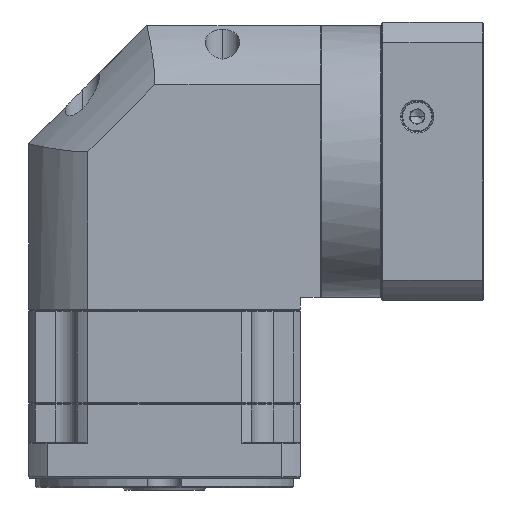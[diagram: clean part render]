
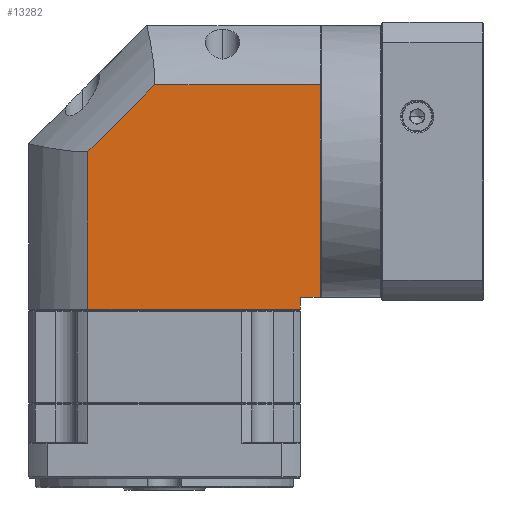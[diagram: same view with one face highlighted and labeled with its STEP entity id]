
A CAD part, front view. The second image highlights one B-rep face of the part: STEP entity #13282.
In plain terms, the highlighted planar face has unit normal (0, -1, 0).
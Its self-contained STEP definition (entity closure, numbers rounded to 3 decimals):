
#1129 = EDGE_CURVE ( 'NONE', #91819, #67849, #65681, .T. ) ;
#1877 = CARTESIAN_POINT ( 'NONE',  ( 36.419, 5.353, 45.963 ) ) ;
#4081 = EDGE_CURVE ( 'NONE', #128246, #91819, #98656, .T. ) ;
#4465 = LINE ( 'NONE', #43493, #109723 ) ;
#4494 = VECTOR ( 'NONE', #123927, 1000. ) ;
#8130 = CARTESIAN_POINT ( 'NONE',  ( -17.02, 5.353, -55.436 ) ) ;
#10123 = VECTOR ( 'NONE', #76498, 1000. ) ;
#13282 = ADVANCED_FACE ( 'NONE', ( #71266 ), #107092, .F. ) ;
#14163 = DIRECTION ( 'NONE',  ( 0.707, 0., 0.707 ) ) ;
#21072 = ORIENTED_EDGE ( 'NONE', *, *, #25868, .F. ) ;
#25868 = EDGE_CURVE ( 'NONE', #53745, #110664, #4465, .T. ) ;
#25946 = DIRECTION ( 'NONE',  ( 0., 0., -1. ) ) ;
#27776 = DIRECTION ( 'NONE',  ( -1., 0., 0. ) ) ;
#33877 = EDGE_CURVE ( 'NONE', #110664, #128246, #63104, .T. ) ;
#35139 = CARTESIAN_POINT ( 'NONE',  ( 106.38, 5.353, 45.963 ) ) ;
#36675 = VECTOR ( 'NONE', #27776, 1000. ) ;
#37037 = ORIENTED_EDGE ( 'NONE', *, *, #1129, .F. ) ;
#42286 = CARTESIAN_POINT ( 'NONE',  ( 106.38, 5.353, -43.936 ) ) ;
#43493 = CARTESIAN_POINT ( 'NONE',  ( 8.08, 5.353, -55.436 ) ) ;
#46980 = CARTESIAN_POINT ( 'NONE',  ( -17.02, 5.353, -48.936 ) ) ;
#52097 = ORIENTED_EDGE ( 'NONE', *, *, #105339, .F. ) ;
#52172 = EDGE_LOOP ( 'NONE', ( #56459, #78258, #37037, #77835, #67050, #21072, #52097 ) ) ;
#52604 = CARTESIAN_POINT ( 'NONE',  ( -17.02, 5.353, 45.963 ) ) ;
#53745 = VERTEX_POINT ( 'NONE', #56819 ) ;
#56459 = ORIENTED_EDGE ( 'NONE', *, *, #81456, .F. ) ;
#56688 = VECTOR ( 'NONE', #14163, 1000. ) ;
#56819 = CARTESIAN_POINT ( 'NONE',  ( 8.08, 5.353, -48.936 ) ) ;
#62510 = CARTESIAN_POINT ( 'NONE',  ( 8.08, 5.353, 17.625 ) ) ;
#63104 = LINE ( 'NONE', #65018, #56688 ) ;
#65018 = CARTESIAN_POINT ( 'NONE',  ( 8.08, 5.353, 17.625 ) ) ;
#65681 = LINE ( 'NONE', #117789, #116664 ) ;
#67050 = ORIENTED_EDGE ( 'NONE', *, *, #33877, .F. ) ;
#67458 = VERTEX_POINT ( 'NONE', #130574 ) ;
#67849 = VERTEX_POINT ( 'NONE', #42286 ) ;
#68260 = LINE ( 'NONE', #77279, #92182 ) ;
#71266 = FACE_OUTER_BOUND ( 'NONE', #52172, .T. ) ;
#76498 = DIRECTION ( 'NONE',  ( 0., 0., -1. ) ) ;
#77279 = CARTESIAN_POINT ( 'NONE',  ( -17.02, 5.353, -43.936 ) ) ;
#77835 = ORIENTED_EDGE ( 'NONE', *, *, #4081, .F. ) ;
#78258 = ORIENTED_EDGE ( 'NONE', *, *, #83627, .F. ) ;
#79495 = DIRECTION ( 'NONE',  ( 1., 0., 0. ) ) ;
#81456 = EDGE_CURVE ( 'NONE', #103790, #67458, #104260, .T. ) ;
#83627 = EDGE_CURVE ( 'NONE', #67849, #103790, #68260, .T. ) ;
#90963 = LINE ( 'NONE', #46980, #36675 ) ;
#91819 = VERTEX_POINT ( 'NONE', #35139 ) ;
#92182 = VECTOR ( 'NONE', #97752, 1000. ) ;
#92382 = CARTESIAN_POINT ( 'NONE',  ( 97.98, 5.353, -43.936 ) ) ;
#97752 = DIRECTION ( 'NONE',  ( -1., 0., 0. ) ) ;
#98656 = LINE ( 'NONE', #52604, #4494 ) ;
#103790 = VERTEX_POINT ( 'NONE', #92382 ) ;
#104260 = LINE ( 'NONE', #107205, #10123 ) ;
#105339 = EDGE_CURVE ( 'NONE', #67458, #53745, #90963, .T. ) ;
#106735 = DIRECTION ( 'NONE',  ( 0., 0., 1. ) ) ;
#107092 = PLANE ( 'NONE',  #126365 ) ;
#107205 = CARTESIAN_POINT ( 'NONE',  ( 97.98, 5.353, -55.436 ) ) ;
#109723 = VECTOR ( 'NONE', #106735, 1000. ) ;
#110664 = VERTEX_POINT ( 'NONE', #62510 ) ;
#116664 = VECTOR ( 'NONE', #25946, 1000. ) ;
#117789 = CARTESIAN_POINT ( 'NONE',  ( 106.38, 5.353, -55.436 ) ) ;
#119137 = DIRECTION ( 'NONE',  ( 0., 1., 0. ) ) ;
#123927 = DIRECTION ( 'NONE',  ( 1., 0., 0. ) ) ;
#126365 = AXIS2_PLACEMENT_3D ( 'NONE', #8130, #119137, #79495 ) ;
#128246 = VERTEX_POINT ( 'NONE', #1877 ) ;
#130574 = CARTESIAN_POINT ( 'NONE',  ( 97.98, 5.353, -48.936 ) ) ;
